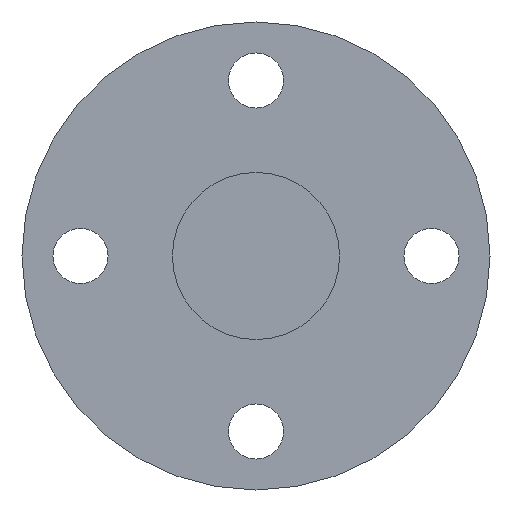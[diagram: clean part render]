
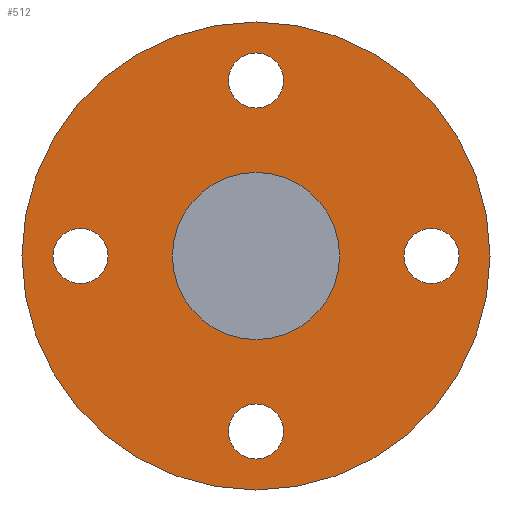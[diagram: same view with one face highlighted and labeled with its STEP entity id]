
A CAD part, left-side view. The second image highlights one B-rep face of the part: STEP entity #512.
In plain terms, the highlighted planar face has unit normal (-1, 0, 0).
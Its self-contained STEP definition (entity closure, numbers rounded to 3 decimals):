
#401=CARTESIAN_POINT('',(130.0,21.0,-3.3));
#402=VERTEX_POINT('',#401);
#403=CARTESIAN_POINT('',(130.0,21.0,0.));
#404=DIRECTION('',(1.0,0.0,0.0));
#405=DIRECTION('',(0.0,0.0,-1.0));
#406=AXIS2_PLACEMENT_3D('',#403,#404,#405);
#407=CIRCLE('',#406,3.3);
#408=EDGE_CURVE('',#402,#402,#407,.T.);
#421=CARTESIAN_POINT('',(130.0,-3.3,-21.0));
#422=VERTEX_POINT('',#421);
#423=CARTESIAN_POINT('',(130.0,0.,-21.0));
#424=DIRECTION('',(1.0,0.0,0.0));
#425=DIRECTION('',(0.0,-1.0,0.0));
#426=AXIS2_PLACEMENT_3D('',#423,#424,#425);
#427=CIRCLE('',#426,3.3);
#428=EDGE_CURVE('',#422,#422,#427,.T.);
#441=CARTESIAN_POINT('',(130.0,-21.0,3.3));
#442=VERTEX_POINT('',#441);
#443=CARTESIAN_POINT('',(130.0,-21.0,0.));
#444=DIRECTION('',(1.0,0.0,0.0));
#445=DIRECTION('',(0.0,0.0,1.0));
#446=AXIS2_PLACEMENT_3D('',#443,#444,#445);
#447=CIRCLE('',#446,3.3);
#448=EDGE_CURVE('',#442,#442,#447,.T.);
#461=CARTESIAN_POINT('',(130.0,3.3,21.0));
#462=VERTEX_POINT('',#461);
#463=CARTESIAN_POINT('',(130.0,0.0,21.0));
#464=DIRECTION('',(1.0,0.0,0.0));
#465=DIRECTION('',(0.0,1.0,0.0));
#466=AXIS2_PLACEMENT_3D('',#463,#464,#465);
#467=CIRCLE('',#466,3.3);
#468=EDGE_CURVE('',#462,#462,#467,.T.);
#473=CARTESIAN_POINT('',(130.0,0.0,19.));
#474=DIRECTION('',(-1.0,0.0,0.0));
#475=DIRECTION('',(0.0,0.0,1.0));
#476=AXIS2_PLACEMENT_3D('',#473,#474,#475);
#477=PLANE('',#476);
#478=CARTESIAN_POINT('',(130.0,0.0,28.));
#479=VERTEX_POINT('',#478);
#480=CARTESIAN_POINT('',(130.0,0.0,0.0));
#481=DIRECTION('',(-1.0,0.0,0.0));
#482=DIRECTION('',(0.0,0.0,1.0));
#483=AXIS2_PLACEMENT_3D('',#480,#481,#482);
#484=CIRCLE('',#483,28.);
#485=EDGE_CURVE('',#479,#479,#484,.T.);
#486=ORIENTED_EDGE('',*,*,#485,.T.);
#487=EDGE_LOOP('',(#486));
#488=FACE_OUTER_BOUND('',#487,.T.);
#489=ORIENTED_EDGE('',*,*,#408,.T.);
#490=EDGE_LOOP('',(#489));
#491=FACE_BOUND('',#490,.T.);
#492=ORIENTED_EDGE('',*,*,#428,.T.);
#493=EDGE_LOOP('',(#492));
#494=FACE_BOUND('',#493,.T.);
#495=ORIENTED_EDGE('',*,*,#448,.T.);
#496=EDGE_LOOP('',(#495));
#497=FACE_BOUND('',#496,.T.);
#498=ORIENTED_EDGE('',*,*,#468,.T.);
#499=EDGE_LOOP('',(#498));
#500=FACE_BOUND('',#499,.T.);
#501=CARTESIAN_POINT('',(130.0,0.0,10.));
#502=VERTEX_POINT('',#501);
#503=CARTESIAN_POINT('',(130.0,0.0,0.0));
#504=DIRECTION('',(-1.0,0.0,0.0));
#505=DIRECTION('',(0.0,0.0,1.0));
#506=AXIS2_PLACEMENT_3D('',#503,#504,#505);
#507=CIRCLE('',#506,10.);
#508=EDGE_CURVE('',#502,#502,#507,.T.);
#509=ORIENTED_EDGE('',*,*,#508,.F.);
#510=EDGE_LOOP('',(#509));
#511=FACE_BOUND('',#510,.T.);
#512=ADVANCED_FACE('',(#488,#491,#494,#497,#500,#511),#477,.T.);
